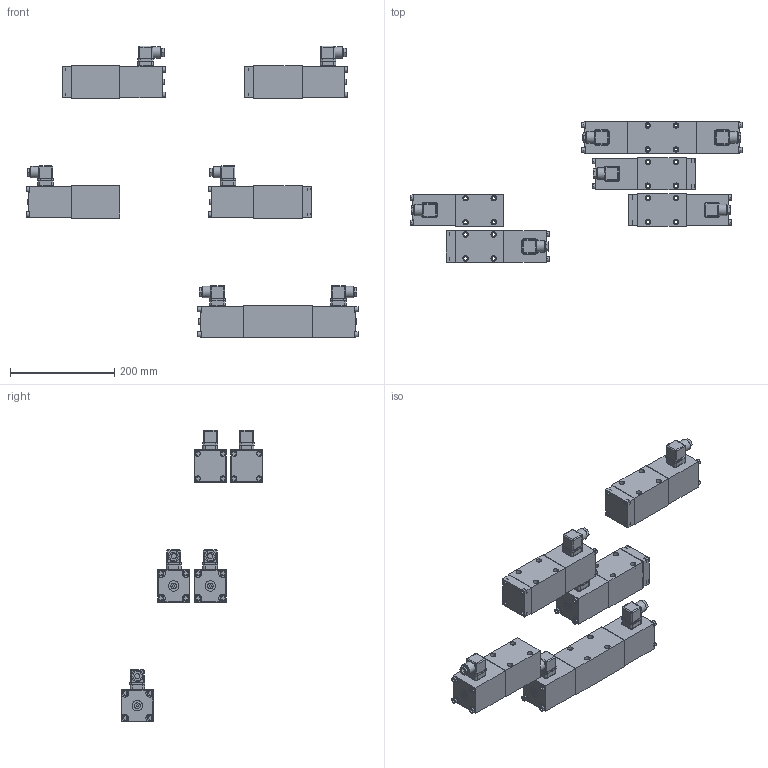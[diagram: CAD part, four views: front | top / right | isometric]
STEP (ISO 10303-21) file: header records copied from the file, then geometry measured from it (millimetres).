
FILE_DESCRIPTION(('Bauteilbeschreibung','HiCAD-Model','HiCAD-STEP-TRANSLATION','Bauteilbeschreibung'),'2;1');
FILE_NAME('D:/A_10.STP','2006-09-29T11:52:25+00:00',('Konstrukteur'),('Konstrukteur Firma GmbH'),'HiCAD3 V1210 STEP 1.6.2005','HiCAD3 V1210','confidential');
FILE_SCHEMA(('AUTOMOTIVE_DESIGN { 1 2 10303 214 0 1 1 1 }'));
Length unit declared in the file: millimetre
Products named in the file (109): A_10; A_3410; C84FC37D; A6221DD1; C5EE4541; AF5ECF44; F134825D; CA9517B3; CA9517B30; DICHTUNG; C5EE45410; AF5ECF440; F134825D0; CA9517B31; CA9517B32; DICHTUNG0; IN6KTM6; IN6KTM60; IN6KTM61; IN6KTM62; IN6KTM63; IN6KTM64; IN6KTM65; IN6KTM66; IN6KTM67; IN6KTM68; D82DEE49; D82DEE490; A_32101A; A74D9B95; A205B8BF; A275F443; A275F4430; IN6KTM69; IN6KTM610; IN6KTM611; IN6KTM612; IN6KTM613; C5EE45411; AF5ECF441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
Assembly tree (108 placements, depth 6):
  A_10
    A_3410
      C84FC37D
        A6221DD1
        C5EE4541
          AF5ECF44
          F134825D
          CA9517B3
          CA9517B30
            DICHTUNG
        C5EE45410
          AF5ECF440
          F134825D0
          CA9517B31
          CA9517B32
            DICHTUNG0
        IN6KTM6
          IN6KTM60
          IN6KTM61
          IN6KTM62
          IN6KTM63
        IN6KTM64
          IN6KTM65
          IN6KTM66
          IN6KTM67
          IN6KTM68
        D82DEE49
        D82DEE490
    A_32101A
      A74D9B95
        A205B8BF
        A275F443
        A275F4430
          IN6KTM69
            IN6KTM610
            IN6KTM611
            IN6KTM612
            IN6KTM613
        C5EE45411
          AF5ECF441
          F134825D1
          CA9517B33
          CA9517B34
            DICHTUNG1
        IN6KTM614
          IN6KTM615
          IN6KTM616
          IN6KTM617
          IN6KTM618
        D82DEE491
    A_22101A
      ABB2D761
        C5EE45412
          AF5ECF442
          F134825D2
          CA9517B35
          CA9517B36
            DICHTUNG2
        IN6KTM619
          IN6KTM620
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Bounding box: 637.4 x 272 x 560 mm (x, y, z)
Volume: 3975136.4 mm3; surface area: 533470.3 mm2
Topology: 92 solids, 92 shells, 1544 faces, 3513 edges, 2354 vertices
Faces by surface type: plane 1011, cylinder 467, cone 36, sphere 24, torus 6
Full cylindrical faces by diameter (mm): 1.5 x18, 3 x18, 4.9 x6, 6 x36, 6.5 x56, 6.8 x6, 7 x6, 8 x12, 10 x42, 10.5 x32, 11 x6, 14 x6, 15 x12, 16.9 x25, 20 x6, 22 x6, 32 x6
Entity records: 71464 total; most frequent: CARTESIAN_POINT 7994, DIRECTION 7446, ORIENTED_EDGE 5972, COLOUR_RGB 4604, PRESENTATION_STYLE_ASSIGNMENT 4604, OVER_RIDING_STYLED_ITEM 4530, CURVE_STYLE 2986, DRAUGHTING_PRE_DEFINED_CURVE_FONT 2986
